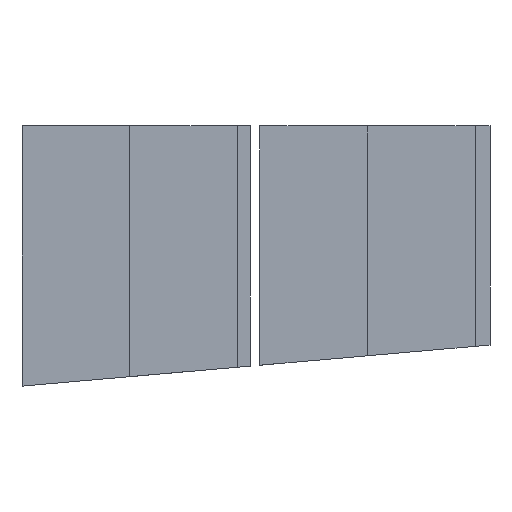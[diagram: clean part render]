
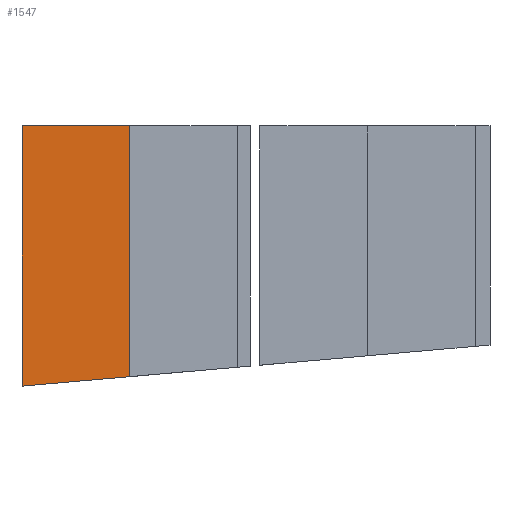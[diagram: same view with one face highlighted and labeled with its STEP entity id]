
A CAD part, left-side view. The second image highlights one B-rep face of the part: STEP entity #1547.
In plain terms, the highlighted planar face has unit normal (-1, 0, 0).
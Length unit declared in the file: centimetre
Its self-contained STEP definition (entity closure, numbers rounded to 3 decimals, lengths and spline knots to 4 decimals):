
#23 = CARTESIAN_POINT ( 'NONE',  ( 682.7112, -4.4725, 422. ) ) ;
#33 = EDGE_CURVE ( 'NONE', #1151, #1096, #253, .T. ) ;
#145 = CARTESIAN_POINT ( 'NONE',  ( 682.7112, -5.9725, 422. ) ) ;
#213 = DIRECTION ( 'NONE',  ( 1., 0., 0. ) ) ;
#224 = CARTESIAN_POINT ( 'NONE',  ( 682.7112, -5.9725, 422. ) ) ;
#250 = FACE_OUTER_BOUND ( 'NONE', #593, .T. ) ;
#253 = LINE ( 'NONE', #23, #1078 ) ;
#261 = EDGE_CURVE ( 'NONE', #1151, #1525, #1918, .T. ) ;
#265 = DIRECTION ( 'NONE',  ( 0., -0.996, 0.087 ) ) ;
#303 = VECTOR ( 'NONE', #1948, 100. ) ;
#440 = ORIENTED_EDGE ( 'NONE', *, *, #261, .F. ) ;
#496 = VECTOR ( 'NONE', #1678, 100. ) ;
#563 = DIRECTION ( 'NONE',  ( 0., 0., 1. ) ) ;
#593 = EDGE_LOOP ( 'NONE', ( #1384, #892, #2023, #440 ) ) ;
#724 = VERTEX_POINT ( 'NONE', #2117 ) ;
#806 = LINE ( 'NONE', #970, #496 ) ;
#892 = ORIENTED_EDGE ( 'NONE', *, *, #1324, .T. ) ;
#934 = VECTOR ( 'NONE', #265, 100. ) ;
#970 = CARTESIAN_POINT ( 'NONE',  ( 682.7112, -119.4725, 422. ) ) ;
#998 = DIRECTION ( 'NONE',  ( 0., 0., -1. ) ) ;
#1078 = VECTOR ( 'NONE', #998, 100. ) ;
#1095 = CARTESIAN_POINT ( 'NONE',  ( 682.7112, -119.4725, 422. ) ) ;
#1096 = VERTEX_POINT ( 'NONE', #1930 ) ;
#1151 = VERTEX_POINT ( 'NONE', #1997 ) ;
#1203 = AXIS2_PLACEMENT_3D ( 'NONE', #224, #213, #563 ) ;
#1324 = EDGE_CURVE ( 'NONE', #1096, #724, #1887, .T. ) ;
#1384 = ORIENTED_EDGE ( 'NONE', *, *, #33, .T. ) ;
#1435 = PLANE ( 'NONE',  #1203 ) ;
#1525 = VERTEX_POINT ( 'NONE', #1095 ) ;
#1547 = ADVANCED_FACE ( 'NONE', ( #250 ), #1435, .F. ) ;
#1678 = DIRECTION ( 'NONE',  ( 0., 0., -1. ) ) ;
#1710 = EDGE_CURVE ( 'NONE', #1525, #724, #806, .T. ) ;
#1859 = CARTESIAN_POINT ( 'NONE',  ( 682.7112, -4.4725, 144. ) ) ;
#1887 = LINE ( 'NONE', #1859, #934 ) ;
#1918 = LINE ( 'NONE', #145, #303 ) ;
#1930 = CARTESIAN_POINT ( 'NONE',  ( 682.7112, -4.4725, 144. ) ) ;
#1948 = DIRECTION ( 'NONE',  ( 0., -1., 0. ) ) ;
#1997 = CARTESIAN_POINT ( 'NONE',  ( 682.7112, -4.4725, 422. ) ) ;
#2023 = ORIENTED_EDGE ( 'NONE', *, *, #1710, .F. ) ;
#2117 = CARTESIAN_POINT ( 'NONE',  ( 682.7112, -119.4725, 154.0612 ) ) ;
